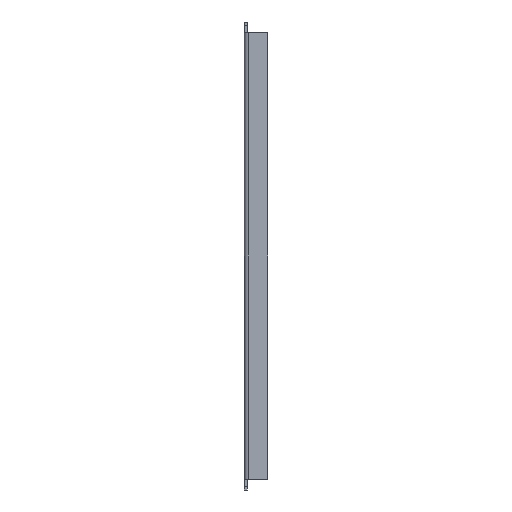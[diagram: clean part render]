
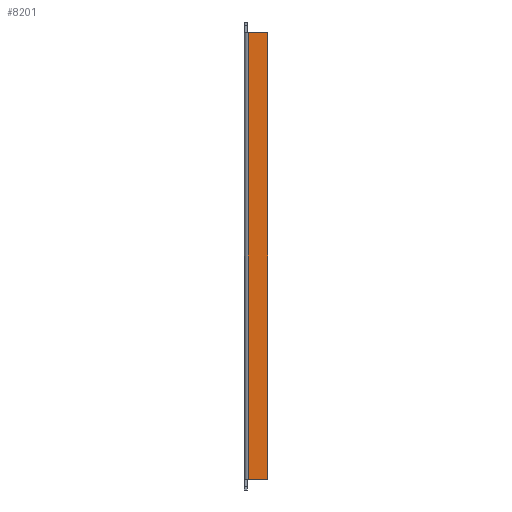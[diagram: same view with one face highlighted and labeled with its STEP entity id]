
A CAD part, left-side view. The second image highlights one B-rep face of the part: STEP entity #8201.
In plain terms, the highlighted planar face has unit normal (-1, 0, 0).
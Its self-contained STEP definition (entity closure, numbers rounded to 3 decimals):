
#4431=CARTESIAN_POINT(' ',(-109.5,-2.6,-142.5));
#4432=VERTEX_POINT(' ',#4431);
#4446=CARTESIAN_POINT(' ',(-109.5,-2.6,-142.5));
#4451=DIRECTION(' ',(0.,0.,1.));
#4456=VECTOR(' ',#4451,1.);
#4461=LINE('',#4446,#4456);
#4466=CARTESIAN_POINT(' ',(-109.5,-2.6,142.5));
#4467=VERTEX_POINT(' ',#4466);
#4471=EDGE_CURVE(' ',#4432,#4467,#4461,.T.);
#8026=CARTESIAN_POINT(' ',(-109.5,-15.,-142.5));
#8027=VERTEX_POINT(' ',#8026);
#8041=CARTESIAN_POINT(' ',(-109.5,-15.,-142.5));
#8046=DIRECTION(' ',(0.,1.,0.));
#8051=VECTOR(' ',#8046,1.);
#8056=LINE('',#8041,#8051);
#8061=EDGE_CURVE(' ',#8027,#4432,#8056,.T.);
#8091=DIRECTION(' ',(-1.,0.,0.));
#8096=CARTESIAN_POINT(' ',(-109.5,-2.6,142.5));
#8101=DIRECTION(' ',(-0.,0.,-1.));
#8106=AXIS2_PLACEMENT_3D(' ',#8096,#8091,#8101);
#8111=PLANE('NONE',#8106);
#8116=ORIENTED_EDGE(' ',*,*,#4471,.F.);
#8121=ORIENTED_EDGE(' ',*,*,#8061,.F.);
#8126=CARTESIAN_POINT(' ',(-109.5,-15.,142.5));
#8131=DIRECTION(' ',(0.,0.,-1.));
#8136=VECTOR(' ',#8131,1.);
#8141=LINE('',#8126,#8136);
#8146=CARTESIAN_POINT(' ',(-109.5,-15.,142.5));
#8147=VERTEX_POINT(' ',#8146);
#8151=EDGE_CURVE(' ',#8147,#8027,#8141,.T.);
#8156=ORIENTED_EDGE(' ',*,*,#8151,.F.);
#8161=CARTESIAN_POINT(' ',(-109.5,-2.6,142.5));
#8166=DIRECTION(' ',(0.,-1.,0.));
#8171=VECTOR(' ',#8166,1.);
#8176=LINE('',#8161,#8171);
#8181=EDGE_CURVE(' ',#4467,#8147,#8176,.T.);
#8186=ORIENTED_EDGE(' ',*,*,#8181,.F.);
#8191=EDGE_LOOP(' ',(#8116,#8121,#8156,#8186));
#8196=FACE_OUTER_BOUND(' ',#8191,.T.);
#8201=ADVANCED_FACE('NONE',(#8196),#8111,.T.);
